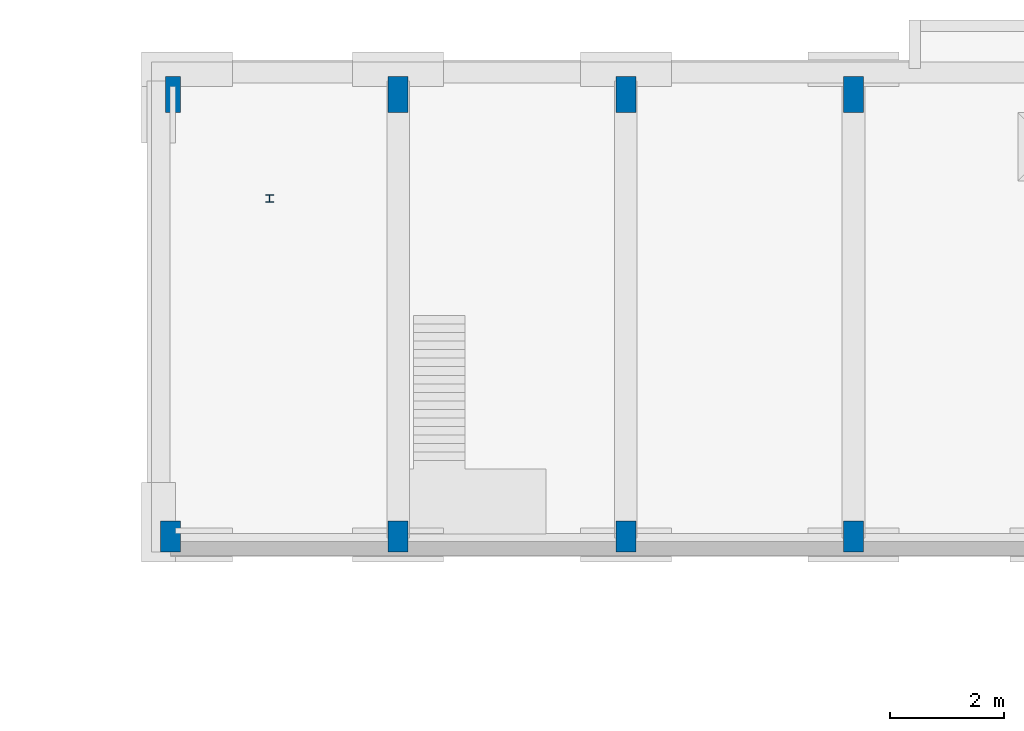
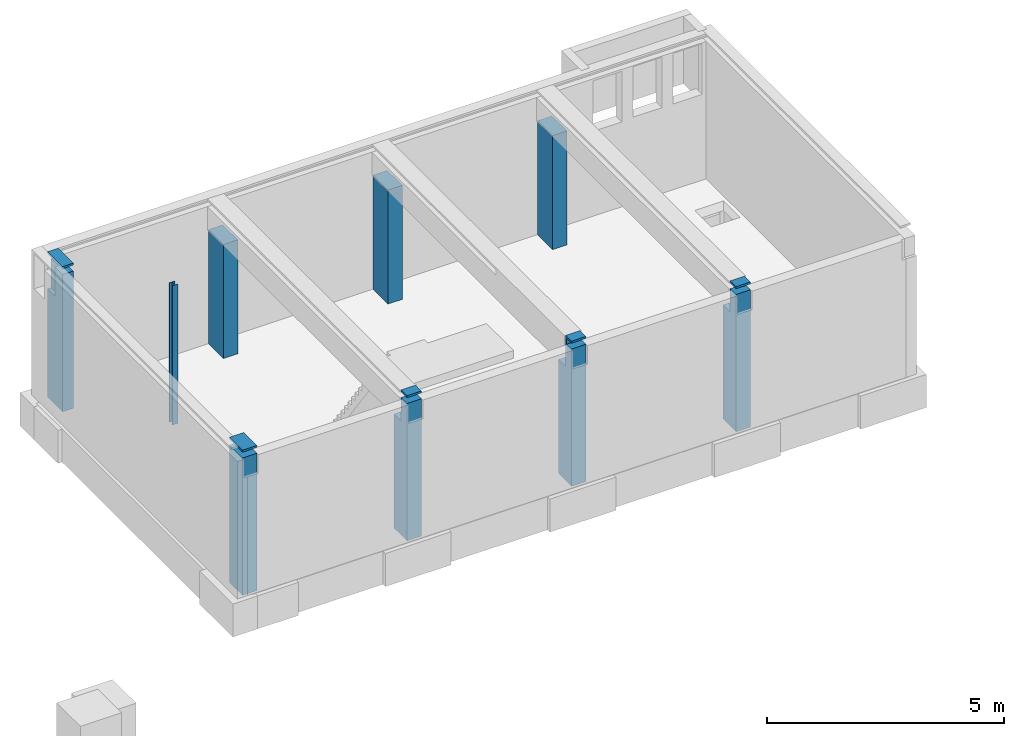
# One storey, part 1 of 5: 9 columns.
"""IFC2X3 building model written with IfcOpenShell, lengths in millimetres."""

from ifc_helpers import new_model, entity, si_unit, converted_unit, derived_unit, money_unit, direction, frame, origin_with_axes, place, context, subcontext, project, spatial, faceted_brep, material, type_object, element, save


model = new_model("IFC2X3")

# Units and contexts
model_context = context("Model", 3, precision=0.01, world=origin_with_axes(), true_north=direction((0.0, 1.0)))
body_context = subcontext(model_context, "Body", "Model", "MODEL_VIEW")
ifc_project = project(units=[si_unit("LENGTHUNIT", "METRE", prefix="MILLI"), si_unit("AREAUNIT", "SQUARE_METRE"), si_unit("VOLUMEUNIT", "CUBIC_METRE"), converted_unit("PLANEANGLEUNIT", "DEGREE", entity("IfcPlaneAngleMeasure", 0.0174532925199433), si_unit("PLANEANGLEUNIT", "RADIAN"), dimensions=[0, 0, 0, 0, 0, 0, 0]), money_unit("EUR"), converted_unit("TIMEUNIT", "Year", entity("IfcTimeMeasure", 31557600.0), si_unit("TIMEUNIT", "SECOND"), dimensions=[0, 0, 1, 0, 0, 0, 0]), si_unit("MASSUNIT", "GRAM", prefix="KILO"), si_unit("THERMODYNAMICTEMPERATUREUNIT", "DEGREE_CELSIUS"), si_unit("LUMINOUSINTENSITYUNIT", "LUMEN"), si_unit("ENERGYUNIT", "JOULE", prefix="MEGA"), derived_unit("THERMALCONDUCTANCEUNIT", [(si_unit("POWERUNIT", "WATT"), 1), (si_unit("LENGTHUNIT", "METRE"), -1), (si_unit("THERMODYNAMICTEMPERATUREUNIT", "KELVIN"), -1)]), derived_unit("SPECIFICHEATCAPACITYUNIT", [(si_unit("ENERGYUNIT", "JOULE"), 1), (si_unit("MASSUNIT", "GRAM", prefix="KILO"), -1), (si_unit("THERMODYNAMICTEMPERATUREUNIT", "KELVIN"), -1)]), derived_unit("MASSDENSITYUNIT", [(si_unit("MASSUNIT", "GRAM", prefix="KILO"), 1), (si_unit("VOLUMEUNIT", "CUBIC_METRE"), -1)])], contexts=[model_context])

# Site, building, storey
site_placement = place(None, origin_with_axes())
site = spatial("IfcSite", under=ifc_project, at=site_placement, Name="<site naam>", CompositionType="ELEMENT")
building_placement = place(site_placement, origin_with_axes())
building = spatial("IfcBuilding", under=site, at=building_placement, Name="<Naam gebouw>", CompositionType="ELEMENT")
storey_placement = place(building_placement, frame((0.0, 0.0, -3730.0), z_axis=(0.0, 0.0, 1.0), x_axis=(1.0, 0.0, 0.0)))
storey = spatial("IfcBuildingStorey", under=building, at=storey_placement, Name="Kelder", CompositionType="ELEMENT", Elevation=-3730.0)

# Columns
ifc_material_1 = material(Name="betonblok C")
column_type_1 = type_object("IfcColumnType", Name="betonblok C 350 x 635", PredefinedType="COLUMN")
column_1_placement = place(storey_placement, frame((16000.00000000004, 19767.50000000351, 0.0), z_axis=(0.0, 0.0, 1.0), x_axis=(1.0, 0.0, 0.0)))
element("IfcColumn", 1, at=column_1_placement, inside=storey, type_object=column_type_1, material=ifc_material_1, Name="28_Kolom_betonblok", ObjectType="COLUMN", context=body_context, shape_type="Brep", body=[
    faceted_brep([(-175.0000000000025, 317.5000000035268, 0.0), (-175.0000000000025, 317.5000000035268, 2930.0), (175.0000000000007, 317.5000000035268, 2930.0), (175.0000000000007, 317.5000000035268, 0.0), (-175.0000000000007, -317.5000000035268, 0.0), (-175.0000000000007, -317.5000000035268, 2930.0), (175.0000000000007, -317.5000000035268, 2930.0), (175.0000000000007, -317.5000000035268, 0.0)], [[[0, 1, 2, 3]], [[4, 5, 1, 0]], [[5, 6, 2, 1]], [[3, 2, 6, 7]], [[0, 3, 7, 4]], [[7, 6, 5, 4]]]),
])
column_2_placement = place(storey_placement, frame((24000.00000000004, 19767.50000000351, 0.0), z_axis=(0.0, 0.0, 1.0), x_axis=(1.0, 0.0, 0.0)))
element("IfcColumn", 2, at=column_2_placement, inside=storey, type_object=column_type_1, material=ifc_material_1, Name="28_Kolom_betonblok", ObjectType="COLUMN", context=body_context, shape_type="Brep", body=[
    faceted_brep([(-175.0000000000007, 317.5000000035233, 0.0), (-175.0000000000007, 317.5000000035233, 2930.0), (175.0000000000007, 317.5000000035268, 2930.0), (175.0000000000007, 317.5000000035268, 0.0), (-175.0000000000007, -317.5000000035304, 0.0), (-175.0000000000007, -317.5000000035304, 2930.0), (175.0000000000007, -317.5000000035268, 2930.0), (175.0000000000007, -317.5000000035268, 0.0)], [[[0, 1, 2, 3]], [[4, 5, 1, 0]], [[5, 6, 2, 1]], [[3, 2, 6, 7]], [[0, 3, 7, 4]], [[7, 6, 5, 4]]]),
])
column_3_placement = place(storey_placement, frame((20000.00000000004, 19767.50000000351, 0.0), z_axis=(0.0, 0.0, 1.0), x_axis=(1.0, 0.0, 0.0)))
element("IfcColumn", 3, at=column_3_placement, inside=storey, type_object=column_type_1, material=ifc_material_1, Name="28_Kolom_betonblok", ObjectType="COLUMN", context=body_context, shape_type="Brep", body=[
    faceted_brep([(-175.0000000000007, 317.5000000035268, 0.0), (-175.0000000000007, 317.5000000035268, 2930.0), (175.0000000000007, 317.5000000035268, 2930.0), (175.0000000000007, 317.5000000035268, 0.0), (-175.0000000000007, -317.5000000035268, 0.0), (-175.0000000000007, -317.5000000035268, 2930.0), (175.0000000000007, -317.5000000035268, 2930.0), (175.0000000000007, -317.5000000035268, 0.0)], [[[0, 1, 2, 3]], [[4, 5, 1, 0]], [[5, 6, 2, 1]], [[3, 2, 6, 7]], [[0, 3, 7, 4]], [[7, 6, 5, 4]]]),
])
column_type_2 = type_object("IfcColumnType", Name="betonblok C 350 x 550", PredefinedType="COLUMN")
column_4_placement = place(storey_placement, frame((16000.00000000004, 12000.00000000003, 0.0), z_axis=(0.0, 0.0, 1.0), x_axis=(1.0, 0.0, 0.0)))
element("IfcColumn", 4, at=column_4_placement, inside=storey, type_object=column_type_2, material=ifc_material_1, Name="28_Kolom_betonblok", ObjectType="COLUMN", context=body_context, shape_type="Brep", body=[
    faceted_brep([(-175.0000000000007, 275.0000000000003, 0.0), (-175.0000000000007, 275.0000000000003, 2930.0), (175.0000000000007, 275.0000000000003, 2930.0), (175.0000000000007, 275.0000000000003, 0.0), (-174.9999999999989, -24.9999999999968, 3530.0), (-174.9999999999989, -24.9999999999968, 2930.0), (-174.9999999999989, -275.0000000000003, 0.0), (-174.9999999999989, -275.0000000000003, 3530.0), (175.0000000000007, -24.9999999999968, 2930.0), (175.0000000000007, -24.9999999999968, 3730.0), (175.0000000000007, -275.0000000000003, 3730.0), (175.0000000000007, -275.0000000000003, 3680.0), (175.0000000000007, -69.628810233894, 3680.0), (175.0000000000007, -69.628810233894, 3530.0), (175.0000000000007, -275.0000000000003, 3530.0), (175.0000000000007, -275.0000000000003, 0.0), (-174.9999999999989, -24.9999999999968, 3680.0), (-174.9999999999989, -24.9999999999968, 3730.0), (44.99999903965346, -24.9999999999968, 3530.0), (44.99999903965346, -24.9999999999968, 3680.0), (44.99999903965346, -69.628810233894, 3530.0), (-174.9999999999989, -275.0000000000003, 3730.0), (-174.9999999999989, -275.0000000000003, 3680.0), (44.99999903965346, -69.628810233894, 3680.0)], [[[0, 1, 2, 3]], [[4, 5, 1, 0, 6, 7]], [[5, 8, 2, 1]], [[2, 8, 9, 10, 11, 12, 13, 14, 15, 3]], [[0, 3, 15, 6]], [[16, 17, 9, 8, 5, 4, 18, 19]], [[6, 15, 14, 7]], [[20, 18, 4, 7, 14, 13]], [[10, 9, 17, 21]], [[10, 21, 22, 11]], [[22, 16, 19, 23, 12, 11]], [[23, 20, 13, 12]], [[21, 17, 16, 22]], [[23, 19, 18, 20]]]),
])
column_5_placement = place(storey_placement, frame((24000.00000000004, 12000.00000000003, 0.0), z_axis=(0.0, 0.0, 1.0), x_axis=(1.0, 0.0, 0.0)))
element("IfcColumn", 5, at=column_5_placement, inside=storey, type_object=column_type_2, material=ifc_material_1, Name="28_Kolom_betonblok", ObjectType="COLUMN", context=body_context, shape_type="Brep", body=[
    faceted_brep([(-175.0000000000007, 275.0000000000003, 0.0), (-175.0000000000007, 275.0000000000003, 2930.0), (175.0000000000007, 275.0000000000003, 2930.0), (175.0000000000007, 275.0000000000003, 0.0), (-175.0000000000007, -24.99999999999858, 3530.0), (-175.0000000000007, -24.99999999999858, 2930.0), (-175.0000000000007, -275.0000000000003, 0.0), (-175.0000000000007, -275.0000000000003, 3530.0), (175.0000000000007, -24.99999999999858, 2930.0), (175.0000000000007, -24.99999999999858, 3530.0), (175.0000000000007, -275.0000000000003, 3530.0), (175.0000000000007, -275.0000000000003, 0.0)], [[[0, 1, 2, 3]], [[4, 5, 1, 0, 6, 7]], [[5, 8, 2, 1]], [[2, 8, 9, 10, 11, 3]], [[0, 3, 11, 6]], [[5, 4, 9, 8]], [[6, 11, 10, 7]], [[10, 9, 4, 7]]]),
    faceted_brep([(175.0000000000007, -275.0000000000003, 3680.0), (175.0000000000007, -24.99999999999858, 3680.0), (175.0000000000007, -24.99999999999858, 3730.0), (175.0000000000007, -275.0000000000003, 3730.0), (-175.0000000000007, -275.0000000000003, 3680.0), (-175.0000000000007, -24.99999999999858, 3680.0), (-175.0000000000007, -24.99999999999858, 3730.0), (-175.0000000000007, -275.0000000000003, 3730.0)], [[[0, 1, 2, 3]], [[4, 5, 1, 0]], [[5, 6, 2, 1]], [[3, 2, 6, 7]], [[3, 7, 4, 0]], [[7, 6, 5, 4]]]),
])
column_6_placement = place(storey_placement, frame((20000.00000000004, 12000.00000000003, 0.0), z_axis=(0.0, 0.0, 1.0), x_axis=(1.0, 0.0, 0.0)))
element("IfcColumn", 6, at=column_6_placement, inside=storey, type_object=column_type_2, material=ifc_material_1, Name="28_Kolom_betonblok", ObjectType="COLUMN", context=body_context, shape_type="Brep", body=[
    faceted_brep([(-175.0000000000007, 274.9999999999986, 0.0), (-175.0000000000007, 274.9999999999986, 2930.0), (175.0000000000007, 275.0000000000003, 2930.0), (175.0000000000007, 275.0000000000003, 0.0), (-175.0000000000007, -24.99999999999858, 3730.0), (-175.0000000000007, -24.99999999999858, 2930.0), (-175.0000000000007, -275.0000000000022, 0.0), (-175.0000000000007, -275.0000000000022, 3530.0), (-175.0000000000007, -69.62881023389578, 3530.0), (-175.0000000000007, -69.62881023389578, 3680.0), (-175.0000000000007, -275.0000000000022, 3680.0), (-175.0000000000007, -275.0000000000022, 3730.0), (175.0000000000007, -24.9999999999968, 2930.0), (175.0000000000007, -24.9999999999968, 3530.0), (175.0000000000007, -275.0000000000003, 3530.0), (175.0000000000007, -275.0000000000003, 0.0), (175.0000000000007, -24.9999999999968, 3730.0), (175.0000000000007, -24.9999999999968, 3680.0), (-50.0157554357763, -24.99999999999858, 3680.0), (-50.0157554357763, -24.99999999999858, 3530.0), (-50.0157555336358, -69.62881023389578, 3530.0), (-50.0157555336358, -69.62881023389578, 3680.0), (175.0000000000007, -275.0000000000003, 3680.0), (175.0000000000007, -275.0000000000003, 3730.0)], [[[0, 1, 2, 3]], [[4, 5, 1, 0, 6, 7, 8, 9, 10, 11]], [[5, 12, 2, 1]], [[2, 12, 13, 14, 15, 3]], [[0, 3, 15, 6]], [[5, 4, 16, 17, 18, 19, 13, 12]], [[6, 15, 14, 7]], [[14, 13, 19, 20, 8, 7]], [[20, 21, 9, 8]], [[21, 18, 17, 22, 10, 9]], [[23, 11, 10, 22]], [[23, 16, 4, 11]], [[22, 17, 16, 23]], [[20, 19, 18, 21]]]),
])
column_7_placement = place(storey_placement, frame((12000.00000000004, 12000.00000000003, 0.0), z_axis=(0.0, 0.0, 1.0), x_axis=(1.0, 0.0, 0.0)))
element("IfcColumn", 7, at=column_7_placement, inside=storey, type_object=column_type_2, material=ifc_material_1, Name="28_Kolom_betonblok", ObjectType="COLUMN", context=body_context, shape_type="Brep", body=[
    faceted_brep([(-175.0000000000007, 274.9999999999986, 0.0), (-175.0000000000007, 274.9999999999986, 3530.0), (175.0000000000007, 275.0000000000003, 3530.0), (175.0000000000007, 275.0000000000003, 0.0), (-174.9999999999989, -275.0000000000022, 0.0), (-174.9999999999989, -275.0000000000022, 3530.0), (175.0000000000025, -275.0000000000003, 3530.0), (175.0000000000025, -275.0000000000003, 0.0)], [[[0, 1, 2, 3]], [[4, 5, 1, 0]], [[5, 6, 2, 1]], [[3, 2, 6, 7]], [[3, 7, 4, 0]], [[7, 6, 5, 4]]]),
    faceted_brep([(175.0000000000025, -275.0000000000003, 3730.0), (175.0000000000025, -275.0000000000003, 3680.0), (175.0000000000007, 275.0000000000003, 3680.0), (175.0000000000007, 275.0000000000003, 3730.0), (-174.9999999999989, -275.0000000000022, 3730.0), (-174.9999999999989, -275.0000000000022, 3680.0), (-175.0000000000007, 274.9999999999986, 3680.0), (-175.0000000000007, 274.9999999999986, 3730.0)], [[[0, 1, 2, 3]], [[4, 5, 1, 0]], [[5, 6, 2, 1]], [[3, 2, 6, 7]], [[3, 7, 4, 0]], [[7, 6, 5, 4]]]),
])
column_type_3 = type_object("IfcColumnType", Name="betonblok C 260 x 635", PredefinedType="COLUMN")
column_8_placement = place(storey_placement, frame((12044.99999952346, 19767.50000000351, 0.0), z_axis=(0.0, 0.0, 1.0), x_axis=(1.0, 0.0, 0.0)))
element("IfcColumn", 8, at=column_8_placement, inside=storey, type_object=column_type_3, material=ifc_material_1, Name="28_Kolom_betonblok", ObjectType="COLUMN", context=body_context, shape_type="Brep", body=[
    faceted_brep([(-130.0000004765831, 317.5000000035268, 0.0), (-130.0000004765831, 317.5000000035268, 2780.0), (-44.99999952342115, 317.5000000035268, 2780.0), (-44.99999952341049, 317.5000000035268, 3530.0), (130.0000004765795, 317.5000000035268, 3530.0), (130.0000004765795, 317.5000000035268, 0.0), (-130.0000004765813, 7.499999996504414, 3530.0), (-130.0000004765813, 7.499999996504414, 2780.0), (-130.0000004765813, -317.5000000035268, 0.0), (-130.0000004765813, -317.5000000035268, 3530.0), (-44.99999952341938, 7.499999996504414, 2780.0), (-44.99999952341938, 7.499999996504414, 3530.0), (130.0000004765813, -317.5000000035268, 3530.0), (130.0000004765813, -317.5000000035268, 0.0)], [[[0, 1, 2, 3, 4, 5]], [[6, 7, 1, 0, 8, 9]], [[10, 2, 1, 7]], [[10, 11, 3, 2]], [[3, 11, 6, 9, 12, 4]], [[13, 5, 4, 12]], [[0, 5, 13, 8]], [[7, 6, 11, 10]], [[8, 13, 12, 9]]]),
    faceted_brep([(130.0000004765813, -317.5000000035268, 3730.0), (130.0000004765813, -317.5000000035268, 3680.0), (130.0000004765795, 317.5000000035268, 3680.0), (130.0000004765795, 317.5000000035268, 3730.0), (-130.0000004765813, -317.5000000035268, 3730.0), (-130.0000004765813, -317.5000000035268, 3680.0), (-130.0000004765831, 317.5000000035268, 3680.0), (-130.0000004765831, 317.5000000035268, 3730.0)], [[[0, 1, 2, 3]], [[4, 5, 1, 0]], [[5, 6, 2, 1]], [[3, 2, 6, 7]], [[3, 7, 4, 0]], [[7, 6, 5, 4]]]),
])
ifc_material_2 = material(Name="staal C")
column_type_4 = type_object("IfcColumnType", Name="Profiel H algemeen 140 x 133", PredefinedType="COLUMN")
column_9_placement = place(storey_placement, frame((13739.9999999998, 17939.99999999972, 0.0), z_axis=(0.0, 0.0, 1.0), x_axis=(1.0, 0.0, 0.0)))
element("IfcColumn", 9, at=column_9_placement, inside=storey, type_object=column_type_4, material=ifc_material_2, Name="28_Kolom_Profiel", ObjectType="COLUMN", context=body_context, shape_type="Brep", body=[
    faceted_brep([(-70.00000000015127, -66.50060677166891, 3580.0), (-70.00000000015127, -66.50060677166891, 0.0), (70.00000000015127, -66.50060677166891, 0.0), (70.00000000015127, -66.50060677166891, 3580.0), (-70.00000000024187, -57.50060676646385, 3580.0), (-70.00000000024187, -57.50060676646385, 0.0), (-3.000000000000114, -57.50060676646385, 0.0), (-3.000000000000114, 57.50060676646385, 0.0), (-70.00000000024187, 57.50060676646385, 0.0), (-70.00000000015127, 66.50060677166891, 0.0), (70.00000000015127, 66.50060677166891, 0.0), (70.00000000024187, 57.50060676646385, 0.0), (3.000000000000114, 57.50060676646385, 0.0), (3.000000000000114, -57.50060676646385, 0.0), (70.00000000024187, -57.50060676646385, 0.0), (70.00000000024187, -57.50060676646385, 3580.0), (3.000000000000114, -57.50060676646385, 3580.0), (3.000000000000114, 57.50060676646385, 3580.0), (70.00000000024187, 57.50060676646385, 3580.0), (70.00000000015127, 66.50060677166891, 3580.0), (-70.00000000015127, 66.50060677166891, 3580.0), (-70.00000000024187, 57.50060676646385, 3580.0), (-3.000000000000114, 57.50060676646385, 3580.0), (-3.000000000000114, -57.50060676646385, 3580.0)], [[[0, 1, 2, 3]], [[4, 5, 1, 0]], [[2, 1, 5, 6, 7, 8, 9, 10, 11, 12, 13, 14]], [[3, 2, 14, 15]], [[4, 0, 3, 15, 16, 17, 18, 19, 20, 21, 22, 23]], [[23, 6, 5, 4]], [[22, 7, 6, 23]], [[21, 8, 7, 22]], [[20, 9, 8, 21]], [[19, 10, 9, 20]], [[18, 11, 10, 19]], [[17, 12, 11, 18]], [[16, 13, 12, 17]], [[15, 14, 13, 16]]]),
])

save(model, "model.ifc")
